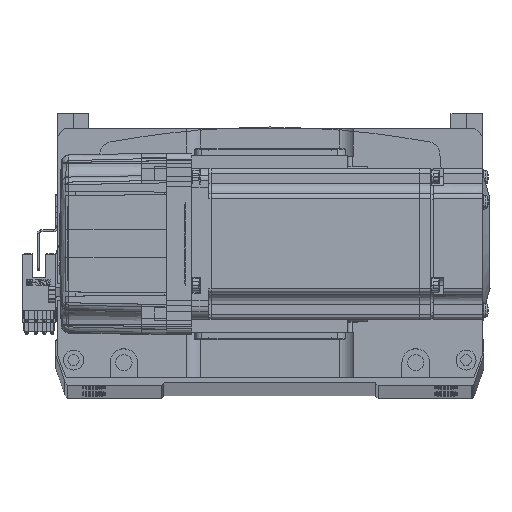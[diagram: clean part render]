
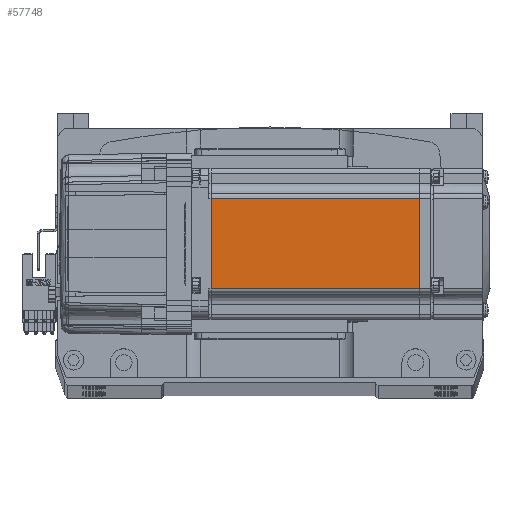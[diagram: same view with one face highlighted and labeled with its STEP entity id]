
A CAD part, top view. The second image highlights one B-rep face of the part: STEP entity #57748.
In plain terms, the highlighted planar face has unit normal (0, 0, 1) as drawn and (0, -1, 0) by its records, which use the part's own axes.
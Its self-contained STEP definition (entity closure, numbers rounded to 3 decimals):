
#1358 = VERTEX_POINT ( 'NONE', #68360 ) ;
#2733 = LINE ( 'NONE', #58111, #55013 ) ;
#3126 = DIRECTION ( 'NONE',  ( -1., 0., 0. ) ) ;
#3313 = CARTESIAN_POINT ( 'NONE',  ( -90.45, -30., -25. ) ) ;
#6782 = ORIENTED_EDGE ( 'NONE', *, *, #53641, .T. ) ;
#15845 = CARTESIAN_POINT ( 'NONE',  ( -7.75, -30., -25. ) ) ;
#16636 = EDGE_CURVE ( 'NONE', #64520, #23798, #60416, .T. ) ;
#18251 = VECTOR ( 'NONE', #3126, 1000. ) ;
#19405 = CARTESIAN_POINT ( 'NONE',  ( -6.5, -30., 18. ) ) ;
#21832 = DIRECTION ( 'NONE',  ( 0., -1., 0. ) ) ;
#22079 = PLANE ( 'NONE',  #27344 ) ;
#22975 = EDGE_LOOP ( 'NONE', ( #6782, #69401, #69714, #30397 ) ) ;
#23798 = VERTEX_POINT ( 'NONE', #52668 ) ;
#25422 = VECTOR ( 'NONE', #38857, 1000. ) ;
#25706 = VERTEX_POINT ( 'NONE', #38543 ) ;
#27344 = AXIS2_PLACEMENT_3D ( 'NONE', #37717, #21832, #60148 ) ;
#29840 = FACE_OUTER_BOUND ( 'NONE', #22975, .T. ) ;
#30397 = ORIENTED_EDGE ( 'NONE', *, *, #47888, .T. ) ;
#37717 = CARTESIAN_POINT ( 'NONE',  ( -6.5, -30., -25. ) ) ;
#38543 = CARTESIAN_POINT ( 'NONE',  ( -7.75, -30., 18. ) ) ;
#38857 = DIRECTION ( 'NONE',  ( 0., 0., 1. ) ) ;
#45104 = EDGE_CURVE ( 'NONE', #25706, #64520, #47479, .T. ) ;
#46234 = DIRECTION ( 'NONE',  ( 1., 0., 0. ) ) ;
#47479 = LINE ( 'NONE', #19405, #18251 ) ;
#47888 = EDGE_CURVE ( 'NONE', #23798, #1358, #2733, .T. ) ;
#48587 = CARTESIAN_POINT ( 'NONE',  ( -90.45, -30., 18. ) ) ;
#50292 = VECTOR ( 'NONE', #62416, 1000. ) ;
#52085 = LINE ( 'NONE', #15845, #25422 ) ;
#52668 = CARTESIAN_POINT ( 'NONE',  ( -90.45, -30., -18. ) ) ;
#53641 = EDGE_CURVE ( 'NONE', #1358, #25706, #52085, .T. ) ;
#55013 = VECTOR ( 'NONE', #46234, 1000. ) ;
#57748 = ADVANCED_FACE ( 'NONE', ( #29840 ), #22079, .T. ) ;
#58111 = CARTESIAN_POINT ( 'NONE',  ( -6.5, -30., -18. ) ) ;
#60148 = DIRECTION ( 'NONE',  ( 0., 0., -1. ) ) ;
#60416 = LINE ( 'NONE', #3313, #50292 ) ;
#62416 = DIRECTION ( 'NONE',  ( 0., 0., -1. ) ) ;
#64520 = VERTEX_POINT ( 'NONE', #48587 ) ;
#68360 = CARTESIAN_POINT ( 'NONE',  ( -7.75, -30., -18. ) ) ;
#69401 = ORIENTED_EDGE ( 'NONE', *, *, #45104, .T. ) ;
#69714 = ORIENTED_EDGE ( 'NONE', *, *, #16636, .T. ) ;
